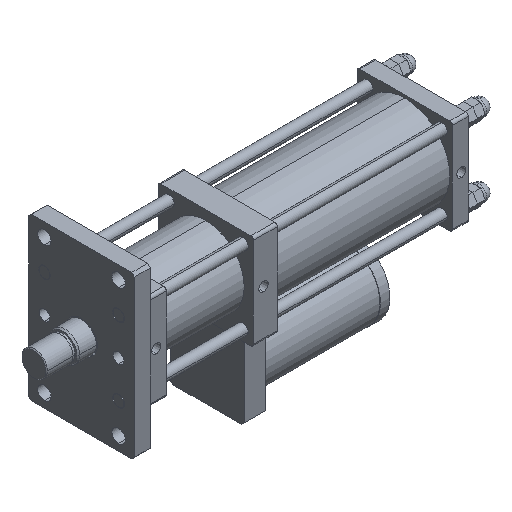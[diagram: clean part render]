
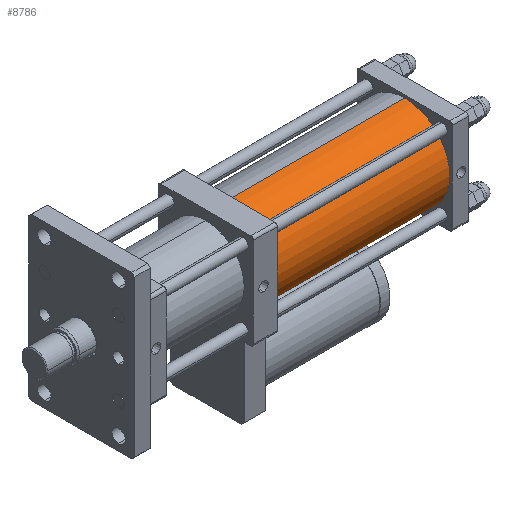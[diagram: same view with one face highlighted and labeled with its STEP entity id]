
A CAD part, isometric view. The second image highlights one B-rep face of the part: STEP entity #8786.
In plain terms, the highlighted cylindrical face has radius 85 mm (diameter 170 mm), a partial arc.
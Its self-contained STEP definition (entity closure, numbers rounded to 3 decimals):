
#96 = CARTESIAN_POINT ( 'NONE',  ( 370., 0., 85. ) ) ;
#271 = LINE ( 'NONE', #4615, #1886 ) ;
#290 = ORIENTED_EDGE ( 'NONE', *, *, #1551, .T. ) ;
#415 = FACE_OUTER_BOUND ( 'NONE', #7011, .T. ) ;
#1444 = CARTESIAN_POINT ( 'NONE',  ( 701., 0., 0. ) ) ;
#1493 = DIRECTION ( 'NONE',  ( 0., 0., 1. ) ) ;
#1551 = EDGE_CURVE ( 'NONE', #3949, #7846, #5289, .T. ) ;
#1820 = AXIS2_PLACEMENT_3D ( 'NONE', #1444, #6260, #2151 ) ;
#1886 = VECTOR ( 'NONE', #8677, 1000. ) ;
#2094 = CARTESIAN_POINT ( 'NONE',  ( 370., 0., -85. ) ) ;
#2151 = DIRECTION ( 'NONE',  ( 0., 0., -1. ) ) ;
#2260 = VERTEX_POINT ( 'NONE', #2094 ) ;
#2757 = EDGE_CURVE ( 'NONE', #7833, #2260, #271, .T. ) ;
#2793 = ORIENTED_EDGE ( 'NONE', *, *, #2757, .F. ) ;
#3440 = DIRECTION ( 'NONE',  ( 1., 0., 0. ) ) ;
#3949 = VERTEX_POINT ( 'NONE', #7870 ) ;
#4615 = CARTESIAN_POINT ( 'NONE',  ( 701., 0., -85. ) ) ;
#4677 = CIRCLE ( 'NONE', #1820, 85. ) ;
#4934 = DIRECTION ( 'NONE',  ( -1., 0., 0. ) ) ;
#5289 = LINE ( 'NONE', #8079, #8687 ) ;
#5306 = ORIENTED_EDGE ( 'NONE', *, *, #7764, .T. ) ;
#5449 = AXIS2_PLACEMENT_3D ( 'NONE', #7547, #3440, #8217 ) ;
#5638 = CARTESIAN_POINT ( 'NONE',  ( 701., 0., 0. ) ) ;
#5703 = CYLINDRICAL_SURFACE ( 'NONE', #8395, 85. ) ;
#6097 = EDGE_CURVE ( 'NONE', #3949, #7833, #4677, .T. ) ;
#6260 = DIRECTION ( 'NONE',  ( 1., 0., 0. ) ) ;
#6426 = CIRCLE ( 'NONE', #5449, 85. ) ;
#6676 = ORIENTED_EDGE ( 'NONE', *, *, #6097, .F. ) ;
#6758 = DIRECTION ( 'NONE',  ( -1., 0., 0. ) ) ;
#7011 = EDGE_LOOP ( 'NONE', ( #2793, #6676, #290, #5306 ) ) ;
#7547 = CARTESIAN_POINT ( 'NONE',  ( 370., 0., 0. ) ) ;
#7632 = CARTESIAN_POINT ( 'NONE',  ( 701., 0., -85. ) ) ;
#7764 = EDGE_CURVE ( 'NONE', #7846, #2260, #6426, .T. ) ;
#7833 = VERTEX_POINT ( 'NONE', #7632 ) ;
#7846 = VERTEX_POINT ( 'NONE', #96 ) ;
#7870 = CARTESIAN_POINT ( 'NONE',  ( 701., 0., 85. ) ) ;
#8079 = CARTESIAN_POINT ( 'NONE',  ( 701., 0., 85. ) ) ;
#8217 = DIRECTION ( 'NONE',  ( 0., 0., -1. ) ) ;
#8395 = AXIS2_PLACEMENT_3D ( 'NONE', #5638, #4934, #1493 ) ;
#8677 = DIRECTION ( 'NONE',  ( -1., 0., 0. ) ) ;
#8687 = VECTOR ( 'NONE', #6758, 1000. ) ;
#8786 = ADVANCED_FACE ( 'NONE', ( #415 ), #5703, .T. ) ;
